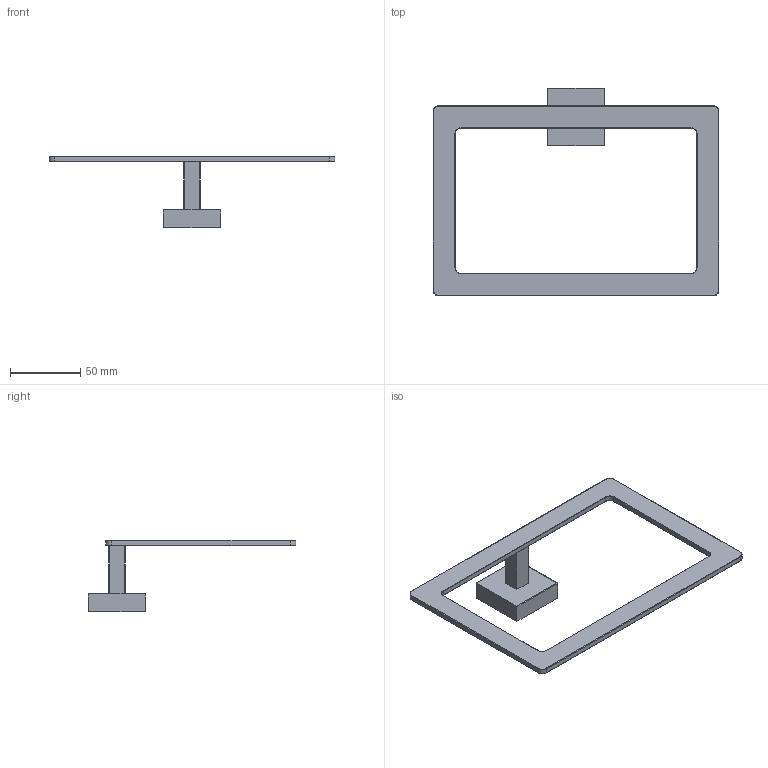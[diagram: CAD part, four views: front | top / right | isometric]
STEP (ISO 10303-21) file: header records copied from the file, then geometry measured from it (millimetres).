
FILE_DESCRIPTION(/* description */ (''),/* implementation_level */ '2;1');
FILE_NAME(/* name */ 'c:\worker\convert-fusion-r06\tmp\job-1\3\output\files\eab7e85c-55c6-4213-8585-05662436fd62\d61cb328-b6c1-4219-b9c2-38d84596f270.stp',/* time_stamp */ '2019-08-26T09:42:48+00:00',/* author */ (''),/* organization */ (''),/* preprocessor_version */ 'ST-DEVELOPER v18',/* originating_system */ 'Autodesk Translation Framework v8.6.0.1094',/* authorisation */ '');
FILE_SCHEMA (('AUTOMOTIVE_DESIGN { 1 0 10303 214 3 1 1 }'));
Length unit declared in the file: millimetre
Products named in the file (1): 8160
Bounding box: 203 x 147.55 x 50.8 mm (x, y, z)
Volume: 51085.9 mm3; surface area: 32410 mm2
Topology: 2 solids, 2 shells, 82 faces, 184 edges, 108 vertices
Faces by surface type: cylinder 36, plane 26, torus 16, sphere 4
Entity records: 2300 total; most frequent: DIRECTION 438, CARTESIAN_POINT 375, ORIENTED_EDGE 368, EDGE_CURVE 184, AXIS2_PLACEMENT_3D 171, VERTEX_POINT 108, LINE 96, VECTOR 96
